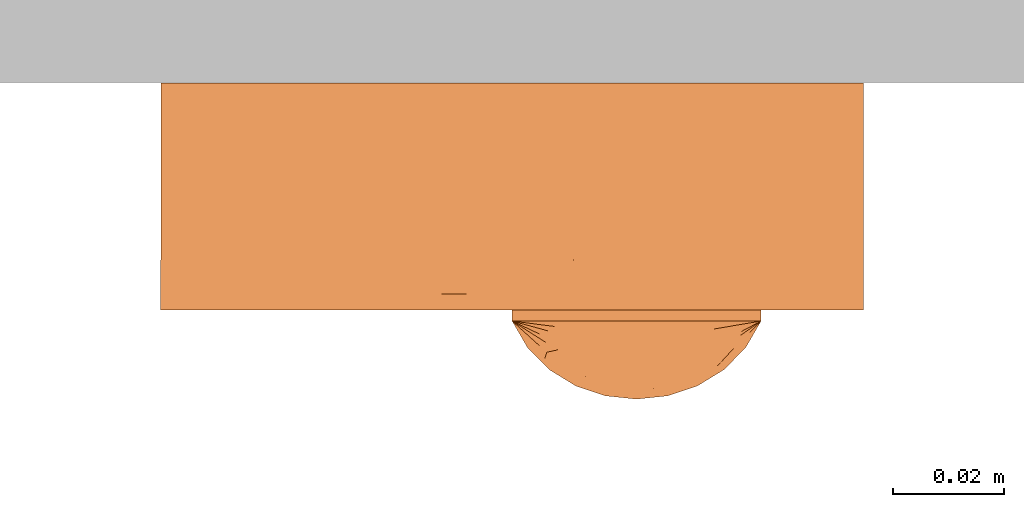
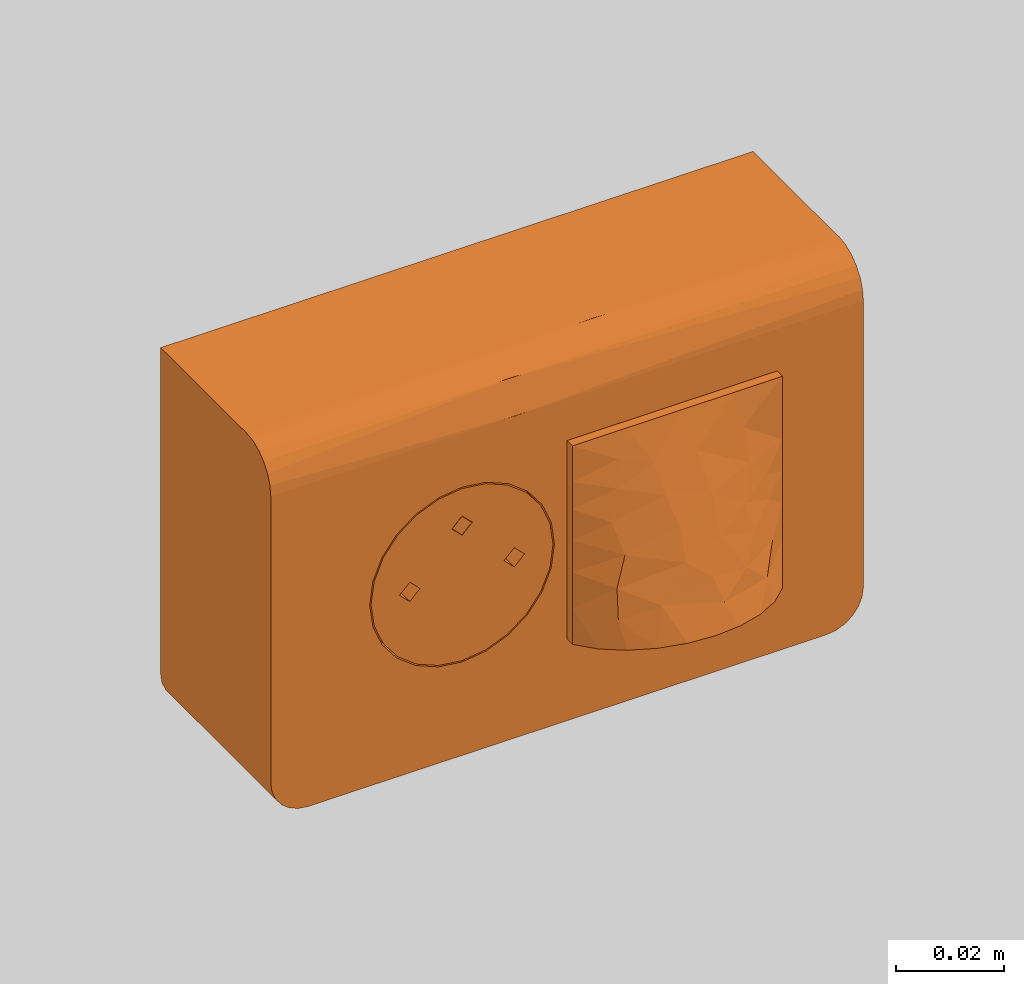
# One storey, part 117 of 197: 1 proxy.
"""IFC2X3 building model written with IfcOpenShell, lengths in metres."""

import ifcopenshell
import ifcopenshell.guid

model = None  # the IFC model being written
_history = None  # IfcOwnerHistory: only IFC2X3 demands one
_inside = {}  # id of a spatial element -> (the spatial element, [elements in it])
_under = {}  # id of a project, library or spatial element -> (it, [spatial elements below it])
_declared = {}  # id of a project -> (the project, [libraries it declares])
_typed = {}  # id of a type object -> (the type object, [elements of that type])
_made_of = {}  # id of a material, layer set ... -> (it, [elements and type objects made of it])


def new_model(schema):
    """Start an empty IFC model of exactly this schema.

    Asked for "IFC4X3", IfcOpenShell would pick the latest addendum, in which some entities
    have other attributes; the version numbers below select the first issue.
    IFC2X3 requires an IfcOwnerHistory on every rooted entity: one is made here for all.
    """
    global model, _history
    if schema == "IFC4X3":
        model = ifcopenshell.file(schema_version=(4, 3, 0, 0))
    else:
        model = ifcopenshell.file(schema=schema)
    _inside.clear()
    _under.clear()
    _declared.clear()
    _typed.clear()
    _made_of.clear()
    _history = None
    if model.schema == "IFC2X3":
        org = make("IfcOrganization", Name="unknown")
        user = make(
            "IfcPersonAndOrganization",
            ThePerson=make("IfcPerson", FamilyName="unknown"),
            TheOrganization=org,
        )
        app = make(
            "IfcApplication",
            ApplicationDeveloper=org,
            Version="unknown",
            ApplicationFullName="unknown",
            ApplicationIdentifier="unknown",
        )
        _history = make(
            "IfcOwnerHistory",
            OwningUser=user,
            OwningApplication=app,
            ChangeAction="ADDED",
            CreationDate=0,
        )
    return model


def make(cls, **values):
    """One entity of the class cls with the attributes given. An attribute that is None is left unset."""
    return model.create_entity(
        cls, **{name: value for name, value in values.items() if value is not None}
    )


def entity(cls, *values):
    """Any entity or typed value of the class cls, its attributes in the order of the schema. None: left unset."""
    e = model.create_entity(cls)
    for i, value in enumerate(values):
        if value is not None:
            e[i] = value
    return e


def rooted(cls, **values):
    """An entity with a GlobalId (a new one), such as an element, a storey or a relation."""
    return make(cls, GlobalId=ifcopenshell.guid.new(), OwnerHistory=_history, **values)


def si_unit(unit_type, name, prefix=None):
    """IfcSIUnit, for example si_unit("LENGTHUNIT", "METRE", prefix="MILLI")."""
    return make("IfcSIUnit", UnitType=unit_type, Prefix=prefix, Name=name)


def converted_unit(unit_type, name, factor, base, dimensions=None, offset=None):
    """IfcConversionBasedUnit, such as the inch: factor (a typed value) times the base unit."""
    return make(
        "IfcConversionBasedUnit"
        if offset is None
        else "IfcConversionBasedUnitWithOffset",
        ConversionOffset=offset,
        Dimensions=None
        if dimensions is None
        else entity("IfcDimensionalExponents", *dimensions),
        UnitType=unit_type,
        Name=name,
        ConversionFactor=make(
            "IfcMeasureWithUnit", ValueComponent=factor, UnitComponent=base
        ),
    )


def assignment(units):
    """IfcUnitAssignment: the units of a project."""
    return None if units is None else make("IfcUnitAssignment", Units=units)


def point(xyz):
    """IfcCartesianPoint."""
    return None if xyz is None else make("IfcCartesianPoint", Coordinates=xyz)


def direction(xyz):
    """IfcDirection."""
    return None if xyz is None else make("IfcDirection", DirectionRatios=xyz)


def frame(location, z_axis=None, x_axis=None):
    """IfcAxis2Placement3D, a coordinate frame: its origin and axes. An axis left out is left unset."""
    return make(
        "IfcAxis2Placement3D",
        Location=point(location),
        Axis=direction(z_axis),
        RefDirection=direction(x_axis),
    )


def origin():
    """The frame at (0, 0, 0) with its axes left unset."""
    return frame((0.0, 0.0, 0.0))


def place(relative_to, where):
    """IfcLocalPlacement: puts the frame where relative to a parent placement (None: the world)."""
    return make(
        "IfcLocalPlacement", PlacementRelTo=relative_to, RelativePlacement=where
    )


def context(
    kind, dimensions, precision=None, world=None, true_north=None, identifier=None
):
    """IfcGeometricRepresentationContext, for example the 3D "Model" context."""
    return make(
        "IfcGeometricRepresentationContext",
        ContextIdentifier=identifier,
        ContextType=kind,
        CoordinateSpaceDimension=dimensions,
        Precision=precision,
        WorldCoordinateSystem=world,
        TrueNorth=true_north,
    )


def subcontext(parent, identifier, kind, view, scale=None):
    """IfcGeometricRepresentationSubContext, for example "Body" below "Model"."""
    return make(
        "IfcGeometricRepresentationSubContext",
        ContextIdentifier=identifier,
        ContextType=kind,
        ParentContext=parent,
        TargetScale=scale,
        TargetView=view,
    )


def project(units=None, contexts=None):
    """IfcProject with its units and contexts."""
    return rooted(
        "IfcProject",
        Name="project",
        RepresentationContexts=contexts,
        UnitsInContext=assignment(units),
    )


def spatial(cls, under=None, at=None, **own):
    """A site, building, storey or space (cls), placed at a placement, below another one or the project."""
    s = rooted(cls, ObjectPlacement=at, **own)
    if under is not None:
        _under.setdefault(under.id(), (under, []))[1].append(s)
    return s


def faces_of(points, faces, orient=None, outer=None):
    """IfcFace entities. A face is a list of loops; a loop is a list of indices into points, from 0.

    orient and outer hold one flag for each loop. By default every Orientation is true, the
    first loop of a face is its IfcFaceOuterBound and the others are IfcFaceBound.
    """
    made = []
    for i, loops in enumerate(faces):
        bounds = []
        for j, loop in enumerate(loops):
            is_outer = j == 0 if outer is None else outer[i][j]
            bounds.append(
                make(
                    "IfcFaceOuterBound" if is_outer else "IfcFaceBound",
                    Bound=make("IfcPolyLoop", Polygon=[points[k] for k in loop]),
                    Orientation=True if orient is None else orient[i][j],
                )
            )
        made.append(make("IfcFace", Bounds=bounds))
    return made


def faceted_brep(points, faces, orient=None, outer=None, voids=None):
    """IfcFacetedBrep: a solid bounded by flat faces; with voids (closed shells), ...WithVoids."""
    shared = [point(p) for p in points]
    hull = make("IfcClosedShell", CfsFaces=faces_of(shared, faces, orient, outer))
    if voids is None:
        return make("IfcFacetedBrep", Outer=hull)
    return make(
        "IfcFacetedBrepWithVoids",
        Outer=hull,
        Voids=[
            make(cls, CfsFaces=faces_of(shared, fs, o, b)) for cls, fs, o, b in voids
        ],
    )


def shape(context_of_items, identifier, shape_type, items):
    """IfcShapeRepresentation: the items that make up one representation, for example the "Body"."""
    return make(
        "IfcShapeRepresentation",
        ContextOfItems=context_of_items,
        RepresentationIdentifier=identifier,
        RepresentationType=shape_type,
        Items=items,
    )


def source(mapping_origin, context_of_items, identifier, shape_type, items):
    """IfcRepresentationMap: a shape defined once, which mapped items show again and again."""
    return make(
        "IfcRepresentationMap",
        MappingOrigin=mapping_origin,
        MappedRepresentation=shape(context_of_items, identifier, shape_type, items),
    )


def transform(
    local_origin,
    x_axis=None,
    y_axis=None,
    z_axis=None,
    scale=None,
    scale2=None,
    scale3=None,
    uniform=True,
):
    """IfcCartesianTransformationOperator3D, or its non-uniform kind. x_axis, y_axis, z_axis: its Axis1, 2, 3."""
    if uniform:
        return make(
            "IfcCartesianTransformationOperator3D",
            Axis1=direction(x_axis),
            Axis2=direction(y_axis),
            LocalOrigin=point(local_origin),
            Scale=scale,
            Axis3=direction(z_axis),
        )
    return make(
        "IfcCartesianTransformationOperator3DnonUniform",
        Axis1=direction(x_axis),
        Axis2=direction(y_axis),
        LocalOrigin=point(local_origin),
        Scale=scale,
        Axis3=direction(z_axis),
        Scale2=scale2,
        Scale3=scale3,
    )


def mapped(mapping_source, mapping_target):
    """IfcMappedItem: shows the shape of a source again, moved by a transform."""
    return make(
        "IfcMappedItem", MappingSource=mapping_source, MappingTarget=mapping_target
    )


def material(Name=None, Category=None):
    """IfcMaterial."""
    return make("IfcMaterial", Name=Name, Category=Category)


def material_list(materials):
    """IfcMaterialList."""
    return make("IfcMaterialList", Materials=materials)


def made_of(thing, what):
    """Note that an element or type object is made of a material, layer set ...; save() writes the relation."""
    if what is not None:
        _made_of.setdefault(what.id(), (what, []))[1].append(thing)
    return thing


def type_object(cls, material=None, **own):
    """A type object (cls), such as IfcWallType, which elements share."""
    return made_of(rooted(cls, **own), material)


def type_shapes(of_type, sources):
    """Give a type object the sources (RepresentationMaps) that its elements show as mapped items."""
    of_type.RepresentationMaps = sources


def element(
    cls,
    number,
    at=None,
    inside=None,
    cuts=None,
    type_object=None,
    material=None,
    context=None,
    identifier="Body",
    shape_type=None,
    held_by="IfcProductDefinitionShape",
    body=None,
    shapes=None,
    **own,
):
    """One element of the class cls, such as IfcWall. Its Tag is "e" and its number.

    at: its placement. inside: the storey or other place that contains it. cuts: it is an
    opening in that element (IfcRelVoidsElement). A single representation is given by context,
    identifier, shape_type and body (its items); several are given by shapes. held_by: the class
    of the entity that holds the representations. save() writes the other relations.
    """
    e = rooted(cls, Tag="e%d" % number, ObjectPlacement=at, **own)
    if body is not None:
        shapes = [shape(context, identifier, shape_type, body)]
    if shapes is not None:
        e.Representation = make(held_by, Representations=shapes)
    if inside is not None:
        _inside.setdefault(inside.id(), (inside, []))[1].append(e)
    if cuts is not None:
        rooted(
            "IfcRelVoidsElement", RelatingBuildingElement=cuts, RelatedOpeningElement=e
        )
    if type_object is not None:
        _typed.setdefault(type_object.id(), (type_object, []))[1].append(e)
    return made_of(e, material)


def aggregate(whole, parts):
    """IfcRelAggregates: a whole, such as a stair, and the parts it consists of."""
    return rooted("IfcRelAggregates", RelatingObject=whole, RelatedObjects=parts)


def save(model, path):
    """Write the relations noted so far, then the file.

    IfcRelAggregates (storeys below a building ...), IfcRelContainedInSpatialStructure (elements
    in a storey), IfcRelDefinesByType, IfcRelAssociatesMaterial and IfcRelDeclares: one each for
    every whole, place, type object, material and project.
    """
    for whole, parts in _under.values():
        aggregate(whole, parts)
    for where, things in _inside.values():
        rooted(
            "IfcRelContainedInSpatialStructure",
            RelatedElements=things,
            RelatingStructure=where,
        )
    for kind, things in _typed.values():
        rooted("IfcRelDefinesByType", RelatedObjects=things, RelatingType=kind)
    for what, things in _made_of.values():
        rooted("IfcRelAssociatesMaterial", RelatedObjects=things, RelatingMaterial=what)
    for by, libraries in _declared.values():
        rooted("IfcRelDeclares", RelatingContext=by, RelatedDefinitions=libraries)
    model.write(path)


model = new_model("IFC2X3")

# Units and contexts
model_context = context("Model", 3, precision=1e-05, world=origin(), true_north=direction((6.123031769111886e-17, 1.0)))
body_context = subcontext(model_context, "Body", "Model", "MODEL_VIEW")
ifc_project = project(units=[si_unit("LENGTHUNIT", "METRE"), converted_unit("PLANEANGLEUNIT", "DEGREE", entity("IfcPlaneAngleMeasure", 0.017453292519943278), si_unit("PLANEANGLEUNIT", "RADIAN"), dimensions=[0, 0, 0, 0, 0, 0, 0]), si_unit("AREAUNIT", "SQUARE_METRE")], contexts=[model_context])

# Site, building, storey
site_placement = place(None, origin())
site = spatial("IfcSite", under=ifc_project, at=site_placement, Name="Default", CompositionType="ELEMENT")
building_placement = place(site_placement, origin())
building = spatial("IfcBuilding", under=site, at=building_placement, CompositionType="ELEMENT")
storey_placement = place(building_placement, origin())
storey = spatial("IfcBuildingStorey", under=building, at=storey_placement, Name="Niveau 0", CompositionType="ELEMENT", Elevation=0.0)

# Proxy
ifc_material_1 = material(Name="BETCE-ENJOLIVEUR PC-BLANC")
ifc_material_2 = material(Name="<Unnamed>")
ifc_material_3 = material(Name="BETCE-SORTIE CABLE-BLANC")
ifc_material_4 = material(Name="BETCE-PCN-BLANC")
ifc_material_list = material_list([ifc_material_1, ifc_material_2, ifc_material_3, ifc_material_4])
building_element_proxy_type = type_object("IfcBuildingElementProxyType", Name="Poste travail saillie 1x2 modules-HDMI_USB sur sortie cable:1PCN+1HDMI+1USB", PredefinedType="NOTDEFINED", material=ifc_material_list)
shared_shape = source(origin(), body_context, "Body", "Brep", [
    faceted_brep([(0.055499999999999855, -0.03199999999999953, -0.040999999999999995), (0.05757055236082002, -0.031999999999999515, -0.04072740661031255), (0.05949999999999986, -0.0319999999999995, -0.03992820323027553), (0.061156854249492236, -0.031999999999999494, -0.0386568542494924), (0.06242820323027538, -0.03199999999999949, -0.03700000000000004), (0.06322740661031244, -0.03199999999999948, -0.03507055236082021), (0.06349999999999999, -0.03199999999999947, -0.032999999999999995), (0.06349999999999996, -0.03199999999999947, 0.04092306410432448), (-0.06350000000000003, -0.032000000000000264, 0.04092306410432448), (-0.06350000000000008, -0.032000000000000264, -0.032999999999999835), (-0.06322740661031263, -0.032000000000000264, -0.03507055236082), (-0.062428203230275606, -0.03200000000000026, -0.03699999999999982), (-0.06115685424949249, -0.03200000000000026, -0.0386568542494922), (-0.05950000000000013, -0.032000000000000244, -0.03992820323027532), (-0.0575705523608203, -0.03200000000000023, -0.040727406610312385), (-0.05550000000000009, -0.032000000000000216, -0.040999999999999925), (-0.06350000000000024, 0.0, -0.032999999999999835), (-0.06350000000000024, 0.0, 0.04092306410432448), (0.06349999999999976, 0.0, 0.04092306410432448), (0.0634999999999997, 0.0, -0.03299999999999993), (0.06322740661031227, 0.0, -0.0350705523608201), (0.062428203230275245, 0.0, -0.036999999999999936), (0.06115685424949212, 0.0, -0.038656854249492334), (0.059499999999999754, 0.0, -0.039928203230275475), (0.057570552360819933, 0.0, -0.040727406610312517), (0.0554999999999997, 0.0, -0.040999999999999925), (-0.05550000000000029, 0.0, -0.04099999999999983), (-0.05757055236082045, 0.0, -0.040727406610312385), (-0.05950000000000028, 0.0, -0.03992820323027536), (-0.06115685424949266, 0.0, -0.03865685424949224), (-0.062428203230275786, 0.0, -0.03699999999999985), (-0.06322740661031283, 0.0, -0.03507055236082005)], [[[0, 1, 2, 3, 4, 5, 6, 7, 8, 9, 10, 11, 12, 13, 14, 15]], [[16, 17, 18, 19, 20, 21, 22, 23, 24, 25, 26, 27, 28, 29, 30, 31]], [[9, 8, 17, 16]], [[0, 15, 26, 25]], [[7, 6, 19, 18]], [[8, 7, 18, 17]], [[26, 15, 14, 27]], [[27, 14, 13, 28]], [[28, 13, 12, 29]], [[30, 11, 10, 31]], [[31, 10, 9, 16]], [[29, 12, 11, 30]], [[20, 19, 6, 5]], [[21, 20, 5, 4]], [[22, 21, 4, 3]], [[23, 22, 3, 2]], [[24, 23, 2, 1]], [[0, 25, 24, 1]]]),
    faceted_brep([(0.04508338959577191, -0.037993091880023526, 0.022499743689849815), (0.0, -0.03799309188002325, 0.022499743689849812), (0.0, -0.03799309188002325, -0.022493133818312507), (0.04508338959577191, -0.037993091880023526, -0.022493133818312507), (0.04508338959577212, -0.002993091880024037, 0.022499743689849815), (0.04508338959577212, -0.002993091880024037, -0.022493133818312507), (0.0, -0.002993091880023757, -0.022493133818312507), (0.0, -0.002993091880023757, 0.022499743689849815)], [[[0, 1, 2, 3]], [[4, 5, 6, 7]], [[3, 5, 4, 0]], [[2, 6, 5, 3]], [[1, 7, 6, 2]], [[0, 4, 7, 1]]]),
    faceted_brep([(0.026499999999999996, -0.042993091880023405, -0.02250025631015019), (0.026499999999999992, -0.03799309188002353, -0.02250025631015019), (0.04499999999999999, -0.03799309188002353, -0.02250025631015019), (0.04499999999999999, -0.042993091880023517, -0.02250025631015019), (0.018499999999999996, -0.042993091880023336, -0.02250025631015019), (0.0, -0.04299309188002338, -0.02250025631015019), (0.0, -0.03799309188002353, -0.02250025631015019), (0.01849999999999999, -0.03799309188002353, -0.02250025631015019), (0.04499999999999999, -0.04299309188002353, 0.02249974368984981), (0.04499999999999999, -0.03799309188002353, 0.02249974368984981), (0.0, -0.03799309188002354, 0.02249974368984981), (0.0, -0.04299309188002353, 0.02249974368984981), (0.011667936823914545, -0.04299309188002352, 0.02249974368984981), (0.02333587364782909, -0.04299309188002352, 0.02249974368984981), (0.03416793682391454, -0.04299309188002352, 0.02249974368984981), (0.044999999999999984, -0.04299309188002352, 0.015338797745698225), (0.044999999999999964, -0.04299309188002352, 0.008177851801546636), (0.04499999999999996, -0.04299309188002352, 0.0010169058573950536), (0.044999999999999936, -0.04299309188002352, -0.00614403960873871), (0.044999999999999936, -0.04299309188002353, -0.014322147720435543), (0.025544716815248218, -0.055137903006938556, -0.014443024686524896), (0.0319090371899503, -0.052451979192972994, -0.01051610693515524), (0.024056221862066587, -0.0535575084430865, -0.009313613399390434), (0.01687620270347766, -0.056512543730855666, -0.0199653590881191), (0.013277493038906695, -0.05306121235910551, -0.012321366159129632), (0.011523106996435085, -0.054727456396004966, -0.020300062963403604), (0.036249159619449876, -0.046098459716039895, 0.007924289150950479), (0.025188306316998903, -0.04569758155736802, 0.014266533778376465), (0.026718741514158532, -0.04831729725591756, 0.005987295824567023), (0.002791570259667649, -0.047815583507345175, -0.021596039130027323), (0.006726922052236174, -0.051794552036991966, -0.020849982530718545), (0.005899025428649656, -0.04976238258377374, -0.015016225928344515), (0.03568740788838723, -0.04456426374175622, 0.015236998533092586), (0.033742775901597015, -0.04852674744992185, 0.0010643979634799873), (0.027119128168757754, -0.051030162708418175, -0.0025082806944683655), (0.03498602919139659, -0.049704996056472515, -0.004940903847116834), (0.0, -0.0429930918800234, -0.014322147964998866), (0.03687566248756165, -0.05138996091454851, -0.015177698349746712), (0.03999383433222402, -0.04798094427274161, -0.009726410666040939), (0.03347469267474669, -0.05472847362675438, -0.02029987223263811), (0.028122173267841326, -0.05651289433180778, -0.019965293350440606), (0.008224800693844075, -0.04820204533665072, -0.001982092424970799), (0.01912313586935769, -0.05204950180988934, -0.0051842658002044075), (0.01904772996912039, -0.04984320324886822, 0.0015118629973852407), (0.02249926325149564, -0.057110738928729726, -0.019853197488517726), (0.04220718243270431, -0.04781721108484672, -0.021595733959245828), (0.03827100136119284, -0.0517961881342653, -0.020849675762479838), (0.006260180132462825, -0.04863674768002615, -0.008621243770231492), (0.0399182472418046, -0.04652925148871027, -0.0014496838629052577), (0.0, -0.04299309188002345, 0.0010169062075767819), (0.0, -0.04299309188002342, -0.006144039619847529), (0.009168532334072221, -0.0441620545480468, 0.016990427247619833), (0.016099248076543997, -0.045417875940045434, 0.014570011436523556), (0.0172651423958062, -0.04755335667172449, 0.008075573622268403), (0.04003045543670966, -0.04562619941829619, 0.0036503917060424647), (0.008290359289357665, -0.045260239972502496, 0.011249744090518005), (0.0, -0.042993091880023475, 0.008177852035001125), (0.006661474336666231, -0.04614525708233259, 0.004597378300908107), (0.0, -0.04299309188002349, 0.014321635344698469), (0.026499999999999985, -0.03799309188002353, -0.015000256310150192), (0.018499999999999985, -0.03799309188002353, -0.015000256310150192), (0.021464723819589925, -0.0508567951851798, -0.015000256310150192), (0.020500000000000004, -0.050457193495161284, -0.015000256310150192), (0.019671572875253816, -0.04982151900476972, -0.015000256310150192), (0.01903589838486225, -0.04899309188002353, -0.015000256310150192), (0.018636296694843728, -0.04802836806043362, -0.015000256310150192), (0.018500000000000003, -0.04699309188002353, -0.015000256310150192), (0.0265, -0.04699309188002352, -0.015000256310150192), (0.026363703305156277, -0.048028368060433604, -0.015000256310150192), (0.025964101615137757, -0.04899309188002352, -0.015000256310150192), (0.025328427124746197, -0.04982151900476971, -0.015000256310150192), (0.024500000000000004, -0.05045719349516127, -0.015000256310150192), (0.02353527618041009, -0.05085679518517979, -0.015000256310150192), (0.022500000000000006, -0.050993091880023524, -0.015000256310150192), (0.018500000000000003, -0.04699309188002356, -0.01914530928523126), (0.018500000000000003, -0.04699309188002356, -0.020447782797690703), (0.018500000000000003, -0.046993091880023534, -0.021750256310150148), (0.0265, -0.04699309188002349, -0.02175025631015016), (0.026500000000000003, -0.04699309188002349, -0.020447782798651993), (0.026500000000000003, -0.04699309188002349, -0.019145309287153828), (0.02549404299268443, -0.04964558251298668, -0.021252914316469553), (0.026383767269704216, -0.04795035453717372, -0.02157076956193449), (0.026041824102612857, -0.04885198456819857, -0.021401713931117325), (0.023918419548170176, -0.050733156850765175, -0.021048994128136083), (0.02477225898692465, -0.05028502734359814, -0.021133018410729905), (0.022982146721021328, -0.05096392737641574, -0.0210057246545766), (0.019505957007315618, -0.04964558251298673, -0.021252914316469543), (0.018616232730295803, -0.04795035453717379, -0.021570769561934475), (0.020227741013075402, -0.05028502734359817, -0.021133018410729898), (0.02108158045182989, -0.0507331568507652, -0.02104899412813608), (0.02201785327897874, -0.050963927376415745, -0.0210057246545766), (0.018958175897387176, -0.04885198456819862, -0.021401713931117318)], [[[0, 1, 2, 3]], [[4, 5, 6, 7]], [[8, 9, 10, 11, 12, 13, 14]], [[9, 8, 15, 16, 17, 18, 19, 3, 2]], [[20, 21, 22]], [[23, 24, 25]], [[26, 27, 28]], [[29, 30, 31]], [[14, 27, 32]], [[33, 34, 35]], [[36, 29, 31]], [[30, 25, 31]], [[36, 5, 29]], [[21, 37, 38]], [[24, 23, 20]], [[39, 20, 40]], [[20, 37, 21]], [[39, 37, 20]], [[41, 42, 43]], [[40, 20, 44]], [[37, 19, 38]], [[19, 45, 3]], [[39, 46, 37]], [[46, 45, 37]], [[44, 20, 23]], [[31, 24, 47]], [[42, 24, 22]], [[31, 47, 36]], [[19, 37, 45]], [[34, 33, 28]], [[33, 35, 48]], [[49, 50, 41]], [[48, 35, 38]], [[51, 52, 12]], [[28, 43, 34]], [[28, 27, 53]], [[21, 38, 35]], [[18, 38, 19]], [[34, 22, 21]], [[54, 48, 17]], [[35, 34, 21]], [[38, 18, 48]], [[42, 34, 43]], [[42, 47, 24]], [[28, 53, 43]], [[55, 56, 57]], [[56, 49, 57]], [[12, 11, 51]], [[26, 28, 33]], [[16, 15, 8, 32]], [[54, 17, 16]], [[41, 43, 57]], [[13, 52, 27]], [[26, 16, 32]], [[14, 13, 27]], [[55, 53, 52]], [[56, 55, 58]], [[27, 52, 53]], [[57, 43, 53]], [[55, 57, 53]], [[57, 49, 41]], [[20, 22, 24]], [[42, 22, 34]], [[55, 52, 51]], [[12, 52, 13]], [[26, 33, 54]], [[17, 48, 18]], [[48, 54, 33]], [[26, 54, 16]], [[51, 58, 55]], [[58, 51, 11]], [[50, 36, 47]], [[24, 31, 25]], [[47, 41, 50]], [[41, 47, 42]], [[26, 32, 27]], [[14, 32, 8]], [[5, 36, 50, 49, 56, 58, 11, 10, 6]], [[2, 1, 59, 60, 7, 6, 10, 9]], [[61, 62, 63, 64, 65, 66, 60, 59, 67, 68, 69, 70, 71, 72, 73]], [[60, 66, 74, 75, 76, 4, 7]], [[67, 59, 1, 0, 77, 78, 79]], [[78, 80, 79]], [[77, 81, 78]], [[78, 82, 80]], [[82, 78, 81]], [[79, 83, 72]], [[79, 84, 83]], [[79, 80, 84]], [[69, 68, 79]], [[67, 79, 68]], [[72, 85, 73]], [[71, 79, 72]], [[79, 71, 70]], [[69, 79, 70]], [[85, 72, 83]], [[74, 86, 75]], [[87, 76, 75]], [[88, 74, 89]], [[90, 89, 61]], [[66, 65, 74]], [[75, 86, 91]], [[91, 87, 75]], [[86, 74, 88]], [[74, 61, 89]], [[61, 73, 90]], [[74, 64, 63]], [[63, 62, 74]], [[61, 74, 62]], [[74, 65, 64]], [[90, 73, 85]], [[5, 4, 76, 87, 91, 86, 88, 89, 90, 85, 83, 84, 80, 82, 81, 77, 0, 3, 45, 46, 39, 40, 44, 23, 25, 30, 29]]]),
    faceted_brep([(0.06349999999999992, -0.040993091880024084, -0.03300000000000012), (0.06349999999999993, -0.040993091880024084, 0.03199999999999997), (0.04499999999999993, -0.040993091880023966, -0.022500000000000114), (0.055499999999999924, -0.040993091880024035, -0.04100000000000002), (0.05757055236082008, -0.04099309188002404, -0.04072740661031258), (0.05949999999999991, -0.04099309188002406, -0.03992820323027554), (0.061156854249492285, -0.04099309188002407, -0.03865685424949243), (0.06322740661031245, -0.04099309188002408, -0.035070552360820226), (0.04499999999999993, -0.040993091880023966, 0.0224999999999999), (-0.045040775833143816, -0.04099309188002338, 0.022499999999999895), (-0.011165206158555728, -0.0409930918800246, 0.03199999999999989), (-0.06354077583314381, -0.040993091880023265, 0.03199999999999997), (-0.045040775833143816, -0.04099309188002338, -0.022500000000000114), (-0.06354077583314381, -0.040993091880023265, -0.03300000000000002), (-0.05554077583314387, -0.04099309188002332, -0.04100000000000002), (-0.05761132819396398, -0.0409930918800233, -0.04072740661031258), (-0.05954077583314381, -0.04099309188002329, -0.03992820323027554), (-0.06119763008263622, -0.04099309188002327, -0.038656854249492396), (-0.06326818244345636, -0.040993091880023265, -0.035070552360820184), (-0.062468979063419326, -0.040993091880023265, -0.03700000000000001), (0.06242820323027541, -0.04099309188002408, -0.03700000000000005), (-0.06354077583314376, -0.031999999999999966, -0.03300000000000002), (-0.06354077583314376, -0.031999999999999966, 0.040999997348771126), (-0.04504077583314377, -0.032000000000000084, 0.022499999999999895), (-0.04504077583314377, -0.032000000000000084, -0.022500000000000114), (-0.05554077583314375, -0.03200000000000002, -0.04100000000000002), (-0.05761132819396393, -0.03200000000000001, -0.04072740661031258), (-0.05954077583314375, -0.031999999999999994, -0.03992820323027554), (-0.06326818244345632, -0.03199999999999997, -0.035070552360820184), (0.011124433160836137, -0.032000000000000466, 0.040999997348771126), (0.06349999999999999, -0.032000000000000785, 0.04099999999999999), (0.04499999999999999, -0.03200000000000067, 0.0224999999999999), (0.06349999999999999, -0.032000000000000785, -0.03300000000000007), (0.04499999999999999, -0.03200000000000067, -0.022500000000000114), (0.05549999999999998, -0.032000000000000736, -0.04100000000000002), (0.057570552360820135, -0.03200000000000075, -0.04072740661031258), (0.05949999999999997, -0.032000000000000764, -0.03992820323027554), (0.06322740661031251, -0.032000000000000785, -0.035070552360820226), (0.06115685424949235, -0.03200000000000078, -0.03865685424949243), (0.062428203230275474, -0.032000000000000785, -0.03700000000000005), (-0.06119763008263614, -0.03199999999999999, -0.038656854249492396), (-0.06246897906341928, -0.03199999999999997, -0.03700000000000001), (0.06349999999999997, -0.03432802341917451, 0.04069184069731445), (0.06349999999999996, -0.036497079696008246, 0.039791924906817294), (0.06349999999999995, -0.03835949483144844, 0.03836151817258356), (0.06349999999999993, -0.03978847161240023, 0.03649800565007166), (0.06349999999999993, -0.04068672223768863, 0.03432825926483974), (-0.06354077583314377, -0.034328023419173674, 0.04069184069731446), (-0.06354077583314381, -0.04068672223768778, 0.03432825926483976), (-0.0635407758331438, -0.03978847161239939, 0.03649800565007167), (-0.0635407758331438, -0.038359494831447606, 0.03836151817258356), (-0.06354077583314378, -0.03649707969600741, 0.039791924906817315), (-0.010910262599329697, -0.03811520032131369, 0.03859695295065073)], [[[0, 1, 2]], [[3, 0, 2]], [[0, 3, 4]], [[0, 4, 5]], [[5, 6, 0]], [[7, 0, 6]], [[2, 1, 8]], [[1, 9, 8]], [[9, 1, 10]], [[9, 10, 11]], [[12, 9, 11]], [[13, 12, 11]], [[14, 12, 13]], [[14, 13, 15]], [[16, 15, 13]], [[13, 17, 16]], [[17, 13, 18]], [[17, 18, 19]], [[12, 14, 3]], [[2, 12, 3]], [[20, 7, 6]], [[21, 22, 23]], [[24, 21, 23]], [[25, 21, 24]], [[21, 25, 26]], [[21, 26, 27]], [[28, 21, 27]], [[23, 22, 29]], [[23, 29, 30]], [[31, 23, 30]], [[32, 31, 30]], [[33, 31, 32]], [[34, 33, 32]], [[34, 32, 35]], [[36, 35, 32]], [[36, 32, 37]], [[37, 38, 36]], [[38, 37, 39]], [[33, 34, 25]], [[24, 33, 25]], [[27, 40, 28]], [[41, 28, 40]], [[1, 0, 32, 30, 42, 43, 44, 45, 46]], [[37, 32, 0, 7]], [[39, 37, 7, 20]], [[38, 39, 20, 6]], [[36, 38, 6, 5]], [[35, 36, 5, 4]], [[34, 35, 4, 3]], [[25, 34, 3, 14]], [[26, 25, 14, 15]], [[27, 26, 15, 16]], [[40, 27, 16, 17]], [[41, 40, 17, 19]], [[28, 41, 19, 18]], [[21, 28, 18, 13]], [[47, 22, 21, 13, 11, 48, 49, 50, 51]], [[24, 23, 9, 12]], [[33, 24, 12, 2]], [[31, 33, 2, 8]], [[23, 31, 8, 9]], [[52, 10, 45]], [[48, 11, 10]], [[1, 46, 10]], [[44, 52, 45]], [[46, 45, 10]], [[51, 52, 47]], [[49, 48, 10]], [[29, 52, 43]], [[49, 52, 50]], [[42, 30, 29]], [[29, 22, 47]], [[49, 10, 52]], [[29, 43, 42]], [[44, 43, 52]], [[52, 51, 50]], [[52, 29, 47]]]),
    faceted_brep([(-0.043040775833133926, -0.03199999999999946, 0.020499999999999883), (-0.043040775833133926, -0.03199999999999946, -0.02050000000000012), (-0.0020407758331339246, -0.03199999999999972, -0.02050000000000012), (-0.0020407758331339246, -0.03199999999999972, 0.020499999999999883), (-0.04304077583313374, -0.002993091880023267, 0.020499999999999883), (-0.0020407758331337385, -0.002993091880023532, 0.020499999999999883), (-0.0020407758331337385, -0.002993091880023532, -0.02050000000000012), (-0.04304077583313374, -0.002993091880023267, -0.02050000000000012)], [[[0, 1, 2, 3]], [[4, 5, 6, 7]], [[1, 0, 4, 7]], [[2, 1, 7, 6]], [[3, 2, 6, 5]], [[0, 3, 5, 4]]]),
    faceted_brep([(-0.045040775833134, -0.040993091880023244, 0.022499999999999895), (-0.032440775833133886, -0.04099309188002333, 0.017147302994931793), (-0.02766539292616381, -0.04099309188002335, 0.019125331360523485), (-0.0365414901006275, -0.04099309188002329, 0.014000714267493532), (-0.022540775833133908, -0.04099309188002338, 0.019799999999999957), (-0.03968807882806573, -0.04099309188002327, 0.009899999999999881), (-0.04166610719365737, -0.040993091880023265, 0.005124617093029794), (-0.042340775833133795, -0.04099309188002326, 0.0), (-0.045040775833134, -0.040993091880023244, -0.022500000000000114), (-4.077583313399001e-05, -0.04099309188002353, 0.022499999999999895), (-0.04166610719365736, -0.040993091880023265, -0.005124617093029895), (-0.039688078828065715, -0.04099309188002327, -0.009899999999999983), (-0.03654149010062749, -0.04099309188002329, -0.01400071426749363), (-0.032440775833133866, -0.04099309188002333, -0.017147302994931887), (-0.027665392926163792, -0.04099309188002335, -0.01912533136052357), (-0.02254077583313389, -0.04099309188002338, -0.019800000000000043), (-4.077583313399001e-05, -0.04099309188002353, -0.02250000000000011), (-0.01741615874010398, -0.04099309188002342, -0.019125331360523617), (-0.012640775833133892, -0.04099309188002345, -0.01714730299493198), (-0.008540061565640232, -0.04099309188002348, -0.01400071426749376), (-0.005393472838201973, -0.040993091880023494, -0.009900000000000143), (-0.0034154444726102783, -0.040993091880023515, -0.005124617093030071), (-0.0027407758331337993, -0.040993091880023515, 0.0), (-0.017416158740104, -0.04099309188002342, 0.019125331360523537), (-0.012640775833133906, -0.04099309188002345, 0.017147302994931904), (-0.00854006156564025, -0.04099309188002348, 0.014000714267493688), (-0.005393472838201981, -0.040993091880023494, 0.009900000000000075), (-0.0034154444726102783, -0.040993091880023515, 0.005124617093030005), (-0.045040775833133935, -0.031999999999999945, -0.022500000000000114), (-0.03244077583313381, -0.03200000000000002, -0.017147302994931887), (-0.027665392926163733, -0.032000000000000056, -0.01912533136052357), (-0.03654149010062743, -0.031999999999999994, -0.01400071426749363), (-0.022540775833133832, -0.032000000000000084, -0.019800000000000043), (-0.03968807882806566, -0.03199999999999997, -0.009899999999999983), (-0.04166610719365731, -0.031999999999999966, -0.005124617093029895), (-0.04234077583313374, -0.03199999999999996, 0.0), (-0.045040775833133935, -0.031999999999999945, 0.022499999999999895), (-4.077583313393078e-05, -0.03200000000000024, -0.022500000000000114), (-0.04166610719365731, -0.031999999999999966, 0.005124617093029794), (-0.039688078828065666, -0.03199999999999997, 0.009899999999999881), (-0.03654149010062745, -0.031999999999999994, 0.014000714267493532), (-0.032440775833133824, -0.03200000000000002, 0.017147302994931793), (-0.02766539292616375, -0.032000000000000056, 0.019125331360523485), (-0.02254077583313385, -0.032000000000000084, 0.019799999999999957), (-4.077583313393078e-05, -0.03200000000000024, 0.022499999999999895), (-0.01741615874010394, -0.03200000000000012, 0.019125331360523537), (-0.012640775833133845, -0.032000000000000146, 0.017147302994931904), (-0.00854006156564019, -0.03200000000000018, 0.014000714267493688), (-0.005393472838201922, -0.0320000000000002, 0.009900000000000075), (-0.0034154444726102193, -0.032000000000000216, 0.005124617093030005), (-0.00274077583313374, -0.032000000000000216, 0.0), (-0.01741615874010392, -0.03200000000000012, -0.019125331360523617), (-0.012640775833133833, -0.032000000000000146, -0.01714730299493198), (-0.008540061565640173, -0.03200000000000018, -0.01400071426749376), (-0.005393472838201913, -0.0320000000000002, -0.009900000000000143), (-0.0034154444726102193, -0.032000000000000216, -0.005124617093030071)], [[[0, 1, 2]], [[1, 0, 3]], [[0, 2, 4]], [[5, 3, 0]], [[6, 5, 0]], [[7, 6, 0]], [[0, 8, 7]], [[4, 9, 0]], [[10, 7, 8]], [[11, 10, 8]], [[12, 11, 8]], [[8, 13, 12]], [[13, 8, 14]], [[15, 14, 8]], [[8, 16, 15]], [[17, 15, 16]], [[18, 17, 16]], [[16, 19, 18]], [[19, 16, 20]], [[21, 20, 16]], [[22, 21, 16]], [[22, 16, 9]], [[9, 4, 23]], [[9, 23, 24]], [[24, 25, 9]], [[25, 26, 9]], [[26, 27, 9]], [[9, 27, 22]], [[28, 29, 30]], [[29, 28, 31]], [[28, 30, 32]], [[33, 31, 28]], [[34, 33, 28]], [[35, 34, 28]], [[28, 36, 35]], [[32, 37, 28]], [[38, 35, 36]], [[39, 38, 36]], [[40, 39, 36]], [[36, 41, 40]], [[41, 36, 42]], [[43, 42, 36]], [[36, 44, 43]], [[45, 43, 44]], [[46, 45, 44]], [[44, 47, 46]], [[47, 44, 48]], [[49, 48, 44]], [[50, 49, 44]], [[50, 44, 37]], [[37, 32, 51]], [[37, 51, 52]], [[52, 53, 37]], [[53, 54, 37]], [[54, 55, 37]], [[37, 55, 50]], [[36, 28, 8, 0]], [[44, 36, 0, 9]], [[37, 44, 9, 16]], [[28, 37, 16, 8]], [[35, 7, 10, 34]], [[34, 10, 11, 33]], [[29, 31, 12, 13]], [[12, 31, 33, 11]], [[30, 29, 13, 14]], [[30, 14, 15, 32]], [[32, 15, 17, 51]], [[51, 17, 18, 52]], [[54, 53, 19, 20]], [[19, 53, 52, 18]], [[55, 54, 20, 21]], [[55, 21, 22, 50]], [[50, 22, 27, 49]], [[49, 27, 26, 48]], [[46, 47, 25, 24]], [[25, 47, 48, 26]], [[45, 46, 24, 23]], [[45, 23, 4, 43]], [[43, 4, 2, 42]], [[42, 2, 1, 41]], [[39, 40, 3, 5]], [[3, 40, 41, 1]], [[38, 39, 5, 6]], [[38, 6, 7, 35]]]),
    faceted_brep([(-0.03374077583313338, -0.032000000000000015, -0.0022000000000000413), (-0.03229077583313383, -0.03200000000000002, -0.016887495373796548), (-0.03632935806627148, -0.031999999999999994, -0.013788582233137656), (-0.027587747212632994, -0.032000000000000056, -0.01883555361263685), (-0.03942827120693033, -0.03199999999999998, -0.00974999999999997), (-0.031540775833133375, -0.03200000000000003, 0.0), (-0.0413763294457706, -0.031999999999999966, -0.005046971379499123), (-0.035940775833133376, -0.032, 0.0), (-0.022540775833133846, -0.032000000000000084, -0.01950000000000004), (-0.013540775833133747, -0.032000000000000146, 0.0), (-0.02254077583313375, -0.032000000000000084, 0.008899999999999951), (-0.02474077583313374, -0.03200000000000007, 0.011099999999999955), (-0.03374077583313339, -0.032000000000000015, 0.0021999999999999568), (-0.04137632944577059, -0.031999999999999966, 0.0050469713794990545), (-0.03942827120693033, -0.03199999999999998, 0.0097499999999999), (-0.03632935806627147, -0.031999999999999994, 0.013788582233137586), (-0.032290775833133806, -0.03200000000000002, 0.016887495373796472), (-0.027587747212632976, -0.032000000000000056, 0.018835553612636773), (-0.022540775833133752, -0.032000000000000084, 0.013299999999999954), (-0.02034077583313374, -0.032000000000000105, 0.011099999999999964), (-0.017493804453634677, -0.03200000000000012, 0.018835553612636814), (-0.012790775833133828, -0.032000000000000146, 0.016887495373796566), (-0.008752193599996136, -0.032000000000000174, 0.013788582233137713), (-0.01134077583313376, -0.03200000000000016, 0.0021999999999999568), (-0.005653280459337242, -0.032000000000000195, 0.009750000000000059), (-0.0037052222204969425, -0.03200000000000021, 0.005046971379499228), (-0.009140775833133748, -0.032000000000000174, 0.0), (-0.017493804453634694, -0.03200000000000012, -0.018835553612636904), (-0.011340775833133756, -0.03200000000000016, -0.0022000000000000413), (-0.01279077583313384, -0.032000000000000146, -0.016887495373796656), (-0.00875219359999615, -0.032000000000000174, -0.013788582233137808), (-0.00565328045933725, -0.032000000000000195, -0.009750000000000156), (-0.0037052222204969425, -0.03200000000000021, -0.0050469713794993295), (-0.0030407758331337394, -0.032000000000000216, 0.0), (-0.04204077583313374, -0.031999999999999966, 0.0), (-0.02254077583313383, -0.032000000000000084, 0.01949999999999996), (-0.03229077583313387, -0.04099309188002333, 0.016887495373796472), (-0.03632935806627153, -0.0409930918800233, 0.013788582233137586), (-0.024740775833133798, -0.040993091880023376, 0.011099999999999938), (-0.027587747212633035, -0.04099309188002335, 0.018835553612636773), (-0.033740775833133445, -0.04099309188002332, 0.0021999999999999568), (-0.03942827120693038, -0.04099309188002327, 0.0097499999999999), (-0.041376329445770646, -0.040993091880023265, 0.0050469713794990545), (-0.03594077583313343, -0.0409930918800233, 0.0), (-0.0420407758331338, -0.04099309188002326, 0.0), (-0.041376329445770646, -0.040993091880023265, -0.005046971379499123), (-0.033740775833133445, -0.04099309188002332, -0.0022000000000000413), (-0.0394282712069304, -0.04099309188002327, -0.00974999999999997), (-0.036329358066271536, -0.0409930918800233, -0.013788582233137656), (-0.03229077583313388, -0.04099309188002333, -0.016887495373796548), (-0.027587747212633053, -0.04099309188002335, -0.01883555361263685), (-0.03154077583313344, -0.04099309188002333, 0.0), (-0.022540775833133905, -0.04099309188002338, -0.01950000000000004), (-0.013540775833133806, -0.040993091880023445, 0.0), (-0.017493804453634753, -0.04099309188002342, -0.018835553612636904), (-0.011340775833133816, -0.04099309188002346, -0.0022000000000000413), (-0.012790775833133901, -0.04099309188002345, -0.016887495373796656), (-0.008752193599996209, -0.04099309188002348, -0.013788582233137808), (-0.00565328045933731, -0.040993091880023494, -0.009750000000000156), (-0.003705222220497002, -0.040993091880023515, -0.0050469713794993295), (-0.009140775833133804, -0.040993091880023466, 0.0), (-0.003040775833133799, -0.040993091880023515, 0.0), (-0.003705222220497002, -0.040993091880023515, 0.005046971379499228), (-0.011340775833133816, -0.04099309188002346, 0.0021999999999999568), (-0.005653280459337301, -0.040993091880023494, 0.009750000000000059), (-0.008752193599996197, -0.04099309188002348, 0.013788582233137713), (-0.0203407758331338, -0.040993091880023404, 0.011099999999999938), (-0.012790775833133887, -0.04099309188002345, 0.016887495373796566), (-0.017493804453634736, -0.04099309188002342, 0.018835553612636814), (-0.02254077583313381, -0.04099309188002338, 0.013299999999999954), (-0.022540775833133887, -0.04099309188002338, 0.01949999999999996), (-0.022540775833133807, -0.04099309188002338, 0.008899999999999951)], [[[0, 1, 2]], [[0, 3, 1]], [[2, 4, 0]], [[0, 5, 3]], [[6, 0, 4]], [[7, 0, 6]], [[3, 5, 8]], [[8, 5, 9]], [[9, 5, 10]], [[10, 5, 11]], [[12, 11, 5]], [[13, 12, 7]], [[13, 14, 12]], [[12, 14, 15]], [[15, 11, 12]], [[15, 16, 11]], [[17, 11, 16]], [[11, 17, 18]], [[19, 9, 10]], [[18, 20, 19]], [[21, 19, 20]], [[19, 21, 22]], [[19, 22, 23]], [[9, 19, 23]], [[24, 23, 22]], [[23, 24, 25]], [[26, 23, 25]], [[27, 8, 9]], [[28, 27, 9]], [[28, 29, 27]], [[28, 30, 29]], [[28, 31, 30]], [[28, 32, 31]], [[32, 28, 26]], [[32, 26, 33]], [[33, 26, 25]], [[6, 34, 7]], [[7, 34, 13]], [[18, 17, 35]], [[20, 18, 35]], [[36, 37, 38]], [[38, 39, 36]], [[37, 40, 38]], [[40, 37, 41]], [[41, 42, 40]], [[40, 42, 43]], [[44, 43, 42]], [[44, 45, 43]], [[46, 43, 45]], [[45, 47, 46]], [[48, 46, 47]], [[46, 48, 49]], [[46, 49, 50]], [[51, 46, 50]], [[51, 50, 52]], [[52, 53, 51]], [[53, 52, 54]], [[55, 53, 54]], [[54, 56, 55]], [[56, 57, 55]], [[55, 57, 58]], [[58, 59, 55]], [[60, 55, 59]], [[59, 61, 60]], [[61, 62, 60]], [[62, 63, 60]], [[64, 63, 62]], [[64, 65, 63]], [[63, 65, 66]], [[66, 65, 67]], [[66, 67, 68]], [[66, 68, 69]], [[68, 70, 69]], [[70, 39, 69]], [[69, 39, 38]], [[53, 66, 71]], [[63, 66, 53]], [[71, 51, 53]], [[38, 51, 71]], [[38, 40, 51]], [[42, 13, 34, 44]], [[41, 14, 13, 42]], [[15, 37, 36, 16]], [[41, 37, 15, 14]], [[16, 36, 39, 17]], [[17, 39, 70, 35]], [[67, 21, 20, 68]], [[65, 22, 21, 67]], [[24, 64, 62, 25]], [[65, 64, 24, 22]], [[25, 62, 61, 33]], [[20, 35, 70, 68]], [[59, 32, 33, 61]], [[58, 31, 32, 59]], [[30, 57, 56, 29]], [[58, 57, 30, 31]], [[29, 56, 54, 27]], [[27, 54, 52, 8]], [[49, 1, 3, 50]], [[48, 2, 1, 49]], [[4, 47, 45, 6]], [[48, 47, 4, 2]], [[6, 45, 44, 34]], [[3, 8, 52, 50]], [[71, 10, 11, 38]], [[66, 19, 10, 71]], [[69, 18, 19, 66]], [[38, 11, 18, 69]], [[55, 28, 9, 53]], [[60, 26, 28, 55]], [[63, 23, 26, 60]], [[53, 9, 23, 63]], [[46, 0, 7, 43]], [[51, 5, 0, 46]], [[40, 12, 5, 51]], [[43, 7, 12, 40]]]),
    faceted_brep([(-0.022540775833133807, -0.040993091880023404, 0.008999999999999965), (-0.0204407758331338, -0.04099309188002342, 0.011099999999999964), (-0.022540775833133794, -0.040993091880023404, 0.013199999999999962), (-0.024640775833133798, -0.0409930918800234, 0.011099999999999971), (-0.02464077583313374, -0.03200000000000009, 0.011099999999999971), (-0.022540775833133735, -0.032000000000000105, 0.013199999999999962), (-0.02044077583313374, -0.03200000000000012, 0.011099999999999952), (-0.02254077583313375, -0.032000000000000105, 0.008999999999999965)], [[[0, 1, 2, 3]], [[4, 5, 6, 7]], [[3, 4, 7, 0]], [[7, 6, 1, 0]], [[1, 6, 5, 2]], [[5, 4, 3, 2]]]),
])
type_shapes(building_element_proxy_type, [shared_shape])
proxy_placement = place(storey_placement, frame((-365.0594485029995, 89.39154659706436, 0.49999999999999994)))
element("IfcBuildingElementProxy", 1, at=proxy_placement, inside=storey, type_object=building_element_proxy_type, material=ifc_material_list, Name="Poste travail saillie 1x2 modules-HDMI_USB sur sortie cable:1PCN+1HDMI+1USB", ObjectType="Poste travail saillie 1x2 modules-HDMI_USB sur sortie cable:1PCN+1HDMI+1USB", context=body_context, shape_type="MappedRepresentation", body=[
    mapped(shared_shape, transform((0.0, 0.0, 0.0), scale=1.0)),
])

save(model, "model.ifc")
